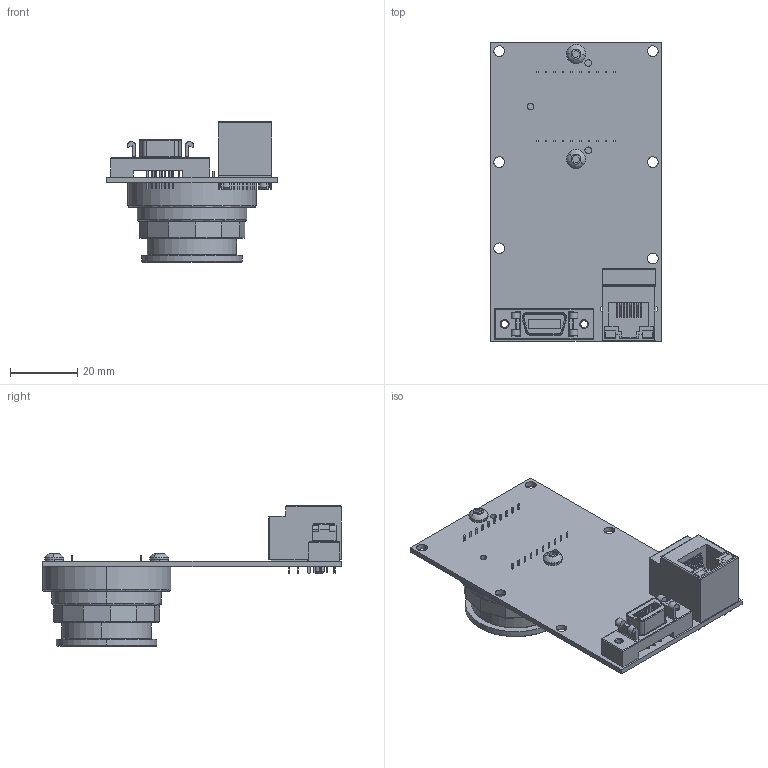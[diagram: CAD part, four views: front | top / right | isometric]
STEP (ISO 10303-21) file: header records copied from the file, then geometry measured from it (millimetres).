
FILE_DESCRIPTION (( 'STEP AP214' ), '1' );
FILE_NAME ('GB1380C-V.STEP', '2013-07-31T22:50:34', ( '' ), ( '' ), 'SwSTEP 2.0', 'SolidWorks 2013', '' );
FILE_SCHEMA (( 'AUTOMOTIVE_DESIGN' ));
Length unit declared in the file: millimetre
Products named in the file (19): 110003AC-CV CMOUNT RING; 220054-SONY ICX285AQ; Sony ICX285 WINDOW; Sony ICX285 BODY; 140004-LOW COST C-MOUNT CAP; 140027-SCREW BUTTON M3x6 SS; 100097A-IR FILTER ASSEMBLY 0.75 INCH; 110054AB-IR FILTER SUPPORT; 440002-IR CUT FILTER 22MM DIA; 110078A-GB MOUNT; 110031A-B EC-CCD LOCKING RING; 140008-washer spring lock #4; GB1380C-V; 260040-3M 10214-6212PC; 200080B-GB1380-650-LS; 200082B-GB1380-650-LS-V; 210046B-GB1380-650-LS; 260038-HALO HFJV1-E1G16-L12RL; 110094A-GB CCD GASKET
Assembly tree (20 placements, depth 4):
  GB1380C-V
    140008-washer spring lock #4  x2
    110031A-B EC-CCD LOCKING RING
    110078A-GB MOUNT
    100097A-IR FILTER ASSEMBLY 0.75 INCH
      440002-IR CUT FILTER 22MM DIA
      110054AB-IR FILTER SUPPORT
    140027-SCREW BUTTON M3x6 SS  x2
    140004-LOW COST C-MOUNT CAP
    220054-SONY ICX285AQ
      Sony ICX285 BODY
      Sony ICX285 WINDOW
    110003AC-CV CMOUNT RING
    110094A-GB CCD GASKET
    200082B-GB1380-650-LS-V
      260038-HALO HFJV1-E1G16-L12RL
      200080B-GB1380-650-LS
        210046B-GB1380-650-LS
      260040-3M 10214-6212PC
Bounding box: 50.8 x 88.9 x 41.72 mm (x, y, z)
Volume: 23458.8 mm3; surface area: 31600.1 mm2
Topology: 16 solids, 16 shells, 1162 faces, 2969 edges, 1891 vertices
Faces by surface type: plane 688, cylinder 270, cone 182, bspline 22
Entity records: 48178 total; most frequent: CARTESIAN_POINT 6756, DIRECTION 5868, ORIENTED_EDGE 5818, EDGE_CURVE 2909, LINE 2126, VECTOR 2126, AXIS2_PLACEMENT_3D 1871, VERTEX_POINT 1855
